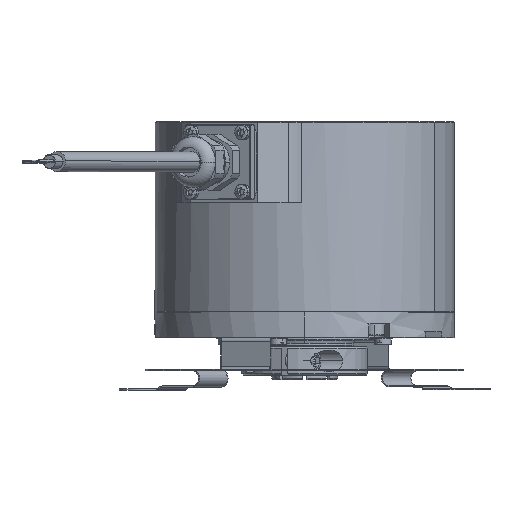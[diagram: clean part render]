
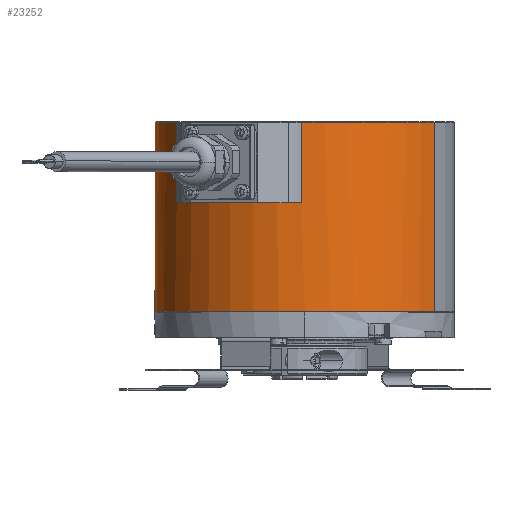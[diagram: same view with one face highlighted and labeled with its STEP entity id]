
A CAD part, top view. The second image highlights one B-rep face of the part: STEP entity #23252.
In plain terms, the highlighted cylindrical face has radius 50 mm (diameter 100 mm), a partial arc.
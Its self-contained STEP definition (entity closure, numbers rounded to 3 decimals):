
#7689 = FACE_OUTER_BOUND ( 'NONE', #15139, .T. ) ;
#7697 = CYLINDRICAL_SURFACE ( 'NONE', #9147, 50. ) ;
#9075 = DIRECTION ( 'NONE',  ( -0.866, 0., -0.5 ) ) ;
#9077 = DIRECTION ( 'NONE',  ( 0., 1., 0. ) ) ;
#9079 = CARTESIAN_POINT ( 'NONE',  ( 0., 58.5, 0. ) ) ;
#9147 = AXIS2_PLACEMENT_3D ( 'NONE', #9079, #9077, #9075 ) ;
#14211 = EDGE_CURVE ( 'NONE', #14763, #14764, #27000, .T. ) ;
#14218 = EDGE_CURVE ( 'NONE', #14769, #14770, #27009, .T. ) ;
#14306 = EDGE_CURVE ( 'NONE', #14770, #14767, #27149, .T. ) ;
#14307 = EDGE_CURVE ( 'NONE', #14767, #14841, #27154, .T. ) ;
#14308 = EDGE_CURVE ( 'NONE', #14841, #14844, #27156, .T. ) ;
#14309 = EDGE_CURVE ( 'NONE', #14844, #14845, #27157, .T. ) ;
#14310 = EDGE_CURVE ( 'NONE', #14845, #14763, #27159, .T. ) ;
#14311 = EDGE_CURVE ( 'NONE', #14769, #14764, #27160, .T. ) ;
#14763 = VERTEX_POINT ( 'NONE', #30573 ) ;
#14764 = VERTEX_POINT ( 'NONE', #30574 ) ;
#14767 = VERTEX_POINT ( 'NONE', #30577 ) ;
#14769 = VERTEX_POINT ( 'NONE', #30579 ) ;
#14770 = VERTEX_POINT ( 'NONE', #30580 ) ;
#14841 = VERTEX_POINT ( 'NONE', #30650 ) ;
#14844 = VERTEX_POINT ( 'NONE', #30653 ) ;
#14845 = VERTEX_POINT ( 'NONE', #30654 ) ;
#14991 = ORIENTED_EDGE ( 'NONE', *, *, #14218, .T. ) ;
#14992 = ORIENTED_EDGE ( 'NONE', *, *, #14306, .T. ) ;
#14993 = ORIENTED_EDGE ( 'NONE', *, *, #14307, .T. ) ;
#14994 = ORIENTED_EDGE ( 'NONE', *, *, #14308, .T. ) ;
#14995 = ORIENTED_EDGE ( 'NONE', *, *, #14309, .T. ) ;
#14996 = ORIENTED_EDGE ( 'NONE', *, *, #14310, .T. ) ;
#14997 = ORIENTED_EDGE ( 'NONE', *, *, #14211, .T. ) ;
#14998 = ORIENTED_EDGE ( 'NONE', *, *, #14311, .F. ) ;
#15139 = EDGE_LOOP ( 'NONE', ( #14991, #14992, #14993, #14994, #14995, #14996, #14997, #14998 ) ) ;
#23252 = ADVANCED_FACE ( 'NONE', ( #7689 ), #7697, .T. ) ;
#27000 = CIRCLE ( 'NONE', #29237, 50. ) ;
#27009 = CIRCLE ( 'NONE', #29241, 50. ) ;
#27149 = LINE ( 'NONE', #30082, #27155 ) ;
#27154 = CIRCLE ( 'NONE', #29273, 50. ) ;
#27155 = VECTOR ( 'NONE', #30087, 1000. ) ;
#27156 = LINE ( 'NONE', #30086, #27158 ) ;
#27157 = CIRCLE ( 'NONE', #29274, 50. ) ;
#27158 = VECTOR ( 'NONE', #30081, 1000. ) ;
#27159 = LINE ( 'NONE', #30088, #27161 ) ;
#27160 = LINE ( 'NONE', #30097, #27163 ) ;
#27161 = VECTOR ( 'NONE', #30089, 1000. ) ;
#27163 = VECTOR ( 'NONE', #30098, 1000. ) ;
#29237 = AXIS2_PLACEMENT_3D ( 'NONE', #29819, #29820, #29821 ) ;
#29241 = AXIS2_PLACEMENT_3D ( 'NONE', #29835, #29836, #29837 ) ;
#29273 = AXIS2_PLACEMENT_3D ( 'NONE', #30090, #30091, #30092 ) ;
#29274 = AXIS2_PLACEMENT_3D ( 'NONE', #30094, #30095, #30096 ) ;
#29819 = CARTESIAN_POINT ( 'NONE',  ( 0., 71.8, 0. ) ) ;
#29820 = DIRECTION ( 'NONE',  ( 0., -1., 0. ) ) ;
#29821 = DIRECTION ( 'NONE',  ( 0.866, 0., 0.5 ) ) ;
#29835 = CARTESIAN_POINT ( 'NONE',  ( 0., 8.7, 0. ) ) ;
#29836 = DIRECTION ( 'NONE',  ( 0., 1., 0. ) ) ;
#29837 = DIRECTION ( 'NONE',  ( -0.866, 0., -0.5 ) ) ;
#30081 = DIRECTION ( 'NONE',  ( 0., -1., 0. ) ) ;
#30082 = CARTESIAN_POINT ( 'NONE',  ( 43.301, 58.5, 25. ) ) ;
#30086 = CARTESIAN_POINT ( 'NONE',  ( -1.056, 58.5, 49.989 ) ) ;
#30087 = DIRECTION ( 'NONE',  ( 0., 1., 0. ) ) ;
#30088 = CARTESIAN_POINT ( 'NONE',  ( -42.764, 58.5, 25.909 ) ) ;
#30089 = DIRECTION ( 'NONE',  ( 0., 1., 0. ) ) ;
#30090 = CARTESIAN_POINT ( 'NONE',  ( 0., 71.8, 0. ) ) ;
#30091 = DIRECTION ( 'NONE',  ( 0., -1., 0. ) ) ;
#30092 = DIRECTION ( 'NONE',  ( 0.866, 0., 0.5 ) ) ;
#30094 = CARTESIAN_POINT ( 'NONE',  ( 0., 45., 0. ) ) ;
#30095 = DIRECTION ( 'NONE',  ( 0., -1., 0. ) ) ;
#30096 = DIRECTION ( 'NONE',  ( 0.866, 0., 0.5 ) ) ;
#30097 = CARTESIAN_POINT ( 'NONE',  ( -43.301, 58.5, -25. ) ) ;
#30098 = DIRECTION ( 'NONE',  ( 0., 1., 0. ) ) ;
#30573 = CARTESIAN_POINT ( 'NONE',  ( -42.764, 71.8, 25.909 ) ) ;
#30574 = CARTESIAN_POINT ( 'NONE',  ( -43.301, 71.8, -25. ) ) ;
#30577 = CARTESIAN_POINT ( 'NONE',  ( 43.301, 71.8, 25. ) ) ;
#30579 = CARTESIAN_POINT ( 'NONE',  ( -43.301, 8.7, -25. ) ) ;
#30580 = CARTESIAN_POINT ( 'NONE',  ( 43.301, 8.7, 25. ) ) ;
#30650 = CARTESIAN_POINT ( 'NONE',  ( -1.056, 71.8, 49.989 ) ) ;
#30653 = CARTESIAN_POINT ( 'NONE',  ( -1.056, 45., 49.989 ) ) ;
#30654 = CARTESIAN_POINT ( 'NONE',  ( -42.764, 45., 25.909 ) ) ;
